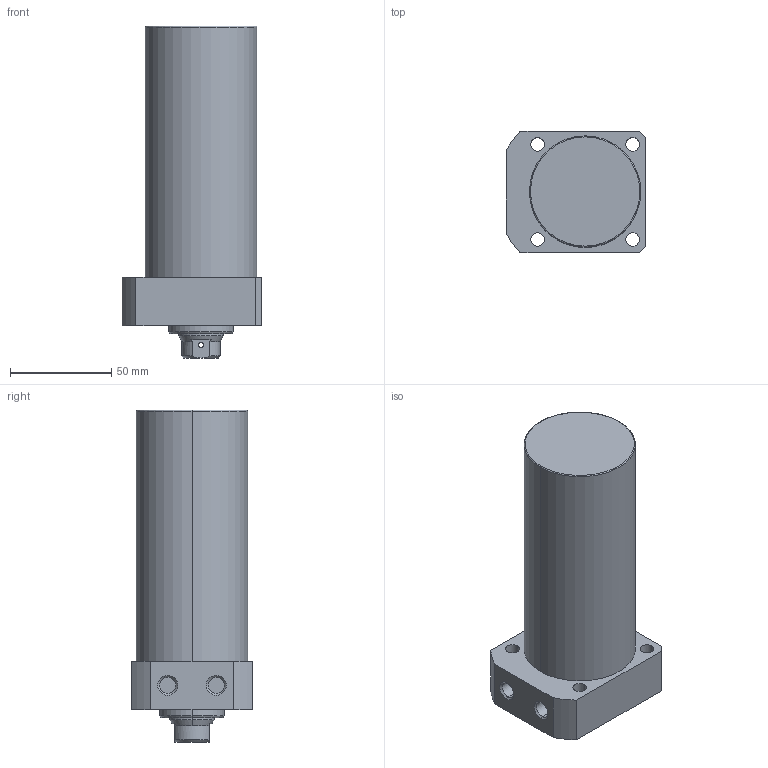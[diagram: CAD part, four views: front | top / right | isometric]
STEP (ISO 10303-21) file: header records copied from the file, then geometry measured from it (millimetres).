
FILE_DESCRIPTION (( 'STEP AP203' ), '1' );
FILE_NAME ('CLLR055-CB-095.STEP', '2017-05-16T03:47:07', ( '' ), ( '' ), 'SwSTEP 2.0', 'SolidWorks 2015', '' );
FILE_SCHEMA (( 'CONFIG_CONTROL_DESIGN' ));
Length unit declared in the file: millimetre
Products named in the file (1): CLLR055-CB-095
Bounding box: 69 x 60 x 164 mm (x, y, z)
Volume: 392188.2 mm3; surface area: 39761.1 mm2
Topology: 1 solids, 1 shells, 69 faces, 162 edges, 101 vertices
Faces by surface type: cylinder 33, plane 19, cone 15, torus 2
Entity records: 2175 total; most frequent: CARTESIAN_POINT 451, DIRECTION 368, ORIENTED_EDGE 320, EDGE_CURVE 160, AXIS2_PLACEMENT_3D 150, VERTEX_POINT 101, EDGE_LOOP 89, CIRCLE 80
